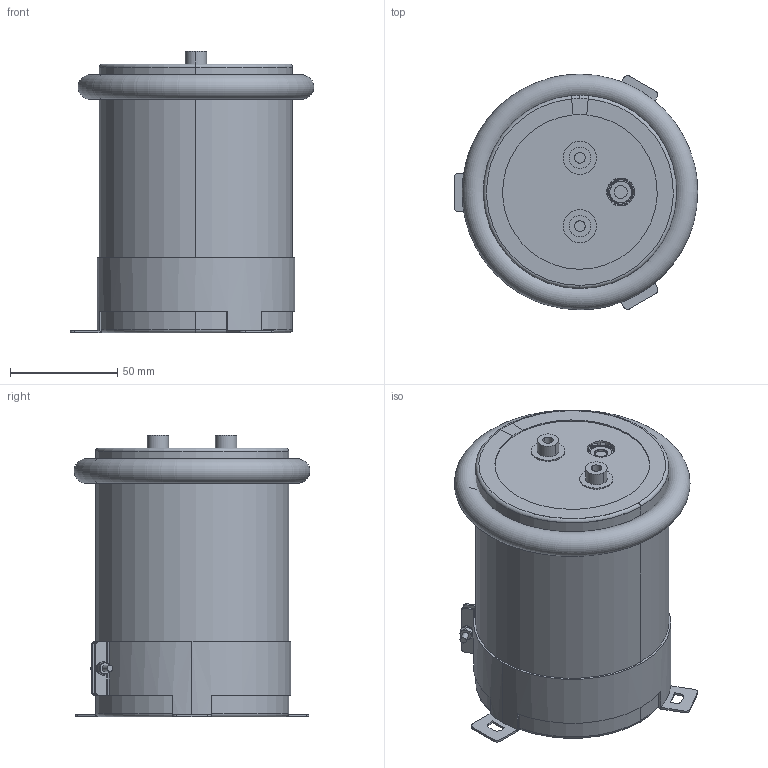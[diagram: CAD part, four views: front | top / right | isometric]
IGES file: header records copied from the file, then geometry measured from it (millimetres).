
Start section: 3D InterOp IGES (v. 2019 1.0.2), Spatial Corp. Copyright (c) 1999-2017.
Global section: file name: 90x125_Screw.igs; native system: Spatial Corp.; preprocessor: 3D InterOp ACIS/IGES; author: Noname; organization: Noname; date: 20220314.171104; units: millimetre
Bounding box: 113.35 x 109.7 x 131 mm (x, y, z)
Volume: 1139903.3 mm3; surface area: 286239 mm2
Topology: 9 solids, 9 shells, 352 faces, 953 edges, 591 vertices
Faces by surface type: plane 112, cylinder 110, torus 90, cone 38, sphere 2
